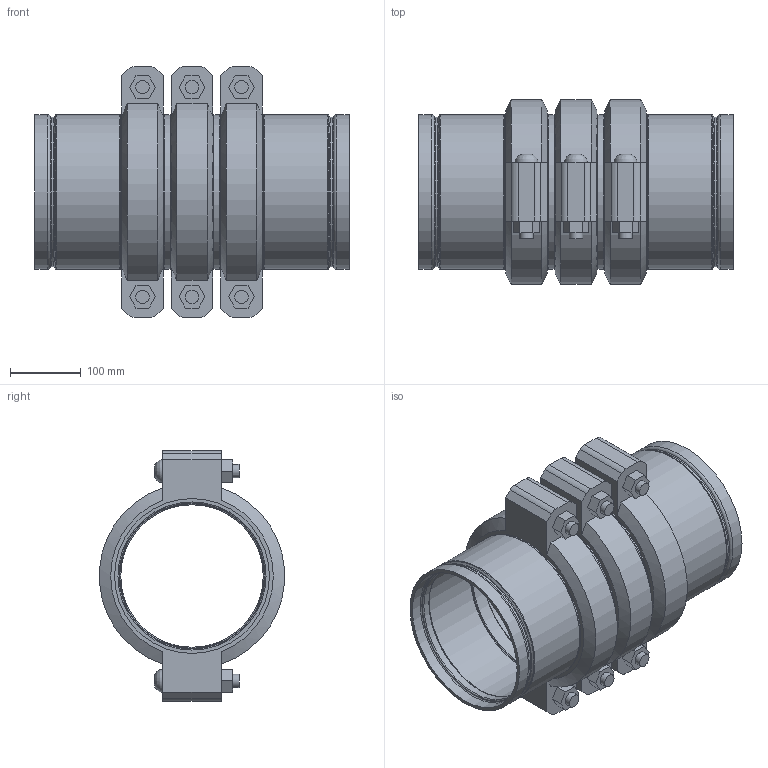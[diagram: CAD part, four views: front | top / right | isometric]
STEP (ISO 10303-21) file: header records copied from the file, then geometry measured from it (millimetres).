
FILE_DESCRIPTION(/* description */ ('VIC STRENGTHIN 100 EXPANSION JOINT 3 COUPLINGS COMPRESSED STYLE E155 (ST1)','CAx-IF Rec.Pracs.---Representation and Presentation of Product Manufacturing Information (PMI)---4.0---2014-10-13'),/* implementation_level */ '2;1');
FILE_NAME(/* name */ 'C:\Users\Vjadhav\AppData\Roaming\Autodesk\ApplicationPlugins\Victaulic.Temp\A21\Victaulic_SS-StrengThin 100_Expansion Joint_Compressed_3 Couplings_Style E155 (ST1)_8 (200).stp',/* time_stamp */ '2021-07-23T12:30:35+05:00',/* author */ ('kkamble'),/* organization */ ('Victaulic'),/* preprocessor_version */ 'ST-DEVELOPER v17.2',/* originating_system */ 'Autodesk Inventor 2019',/* authorisation */ '');
FILE_SCHEMA (('AP242_MANAGED_MODEL_BASED_3D_ENGINEERING_MIM_LF { 1 0 10303 442 1 1 4 }'));
Length unit declared in the file: inch
Products named in the file (4): E155-08.0; E494G-08.0; Nipple-08.0; 075-08.0
Assembly tree (7 placements, depth 2):
  E155-08.0
    E494G-08.0  x2
    Nipple-08.0  x2
    075-08.0  x3
Bounding box: 445.26 x 261.72 x 354.84 mm (x, y, z)
Volume: 5827281.8 mm3; surface area: 1158852.5 mm2
Topology: 7 solids, 13 shells, 253 faces, 671 edges, 480 vertices
Faces by surface type: plane 128, cylinder 71, torus 32, cone 16, bspline 6
Full cylindrical faces by diameter (mm): 19.05 x12, 21.209 x6, 201.651 x2, 202.717 x2, 204.851 x2, 209.525 x6, 211.201 x2, 214.401 x6, 219.075 x15
Entity records: 3666 total; most frequent: DIRECTION 649, CARTESIAN_POINT 648, ORIENTED_EDGE 544, AXIS2_PLACEMENT_3D 276, EDGE_CURVE 272, VERTEX_POINT 197, CIRCLE 167, EDGE_LOOP 125
